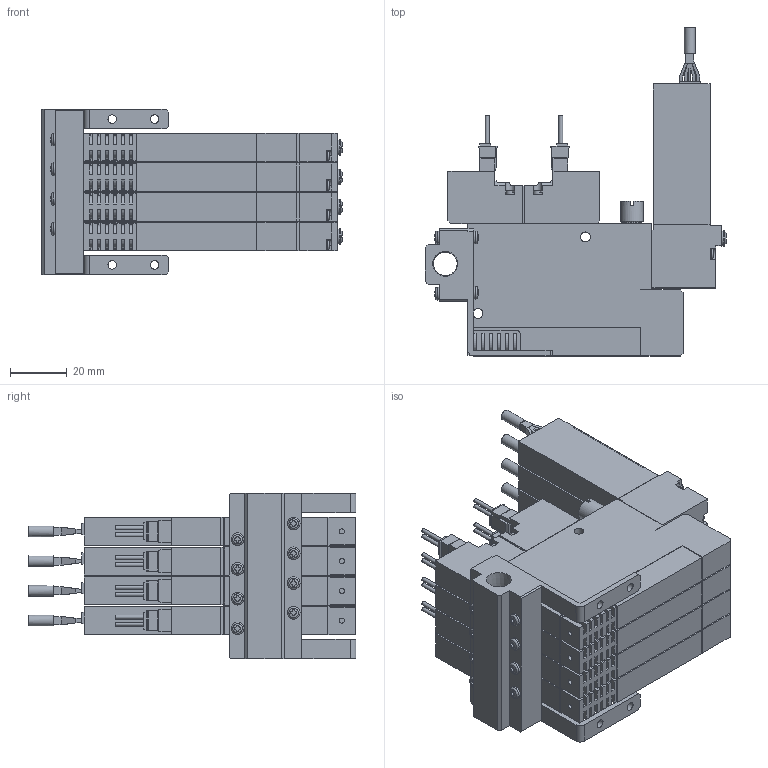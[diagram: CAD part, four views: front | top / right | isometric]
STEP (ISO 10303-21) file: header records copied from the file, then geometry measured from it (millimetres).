
FILE_DESCRIPTION(('STEP AP203'),'1');
FILE_NAME('5SS404_3D.stp','2024-09-04T13:56:58',(' '),(' '),'Spatial InterOp 3D',' ',' ');
FILE_SCHEMA(('CONFIG_CONTROL_DESIGN'));
Length unit declared in the file: millimetre
Products named in the file (5): BSC1M※※V9※5SS404; Solenoid valve S; Pressure Sensor V9; Unit-S; BaseMS40R
Assembly tree (13 placements, depth 2):
  BSC1M※※V9※5SS404
    Solenoid valve S  x4
    Pressure Sensor V9  x4
    Unit-S  x4
    BaseMS40R
Bounding box: 106.35 x 115.8 x 58.5 mm (x, y, z)
Volume: 235444.1 mm3; surface area: 93803.6 mm2
Topology: 13 solids, 13 shells, 2127 faces, 5843 edges, 3862 vertices
Faces by surface type: plane 1582, cylinder 475, torus 24, sphere 24, cone 22
Full cylindrical faces by diameter (mm): 1.4 x16, 1.8 x4, 2.5 x8, 3 x20, 3.5 x32, 3.8 x4, 4 x4, 4.134 x8, 4.5 x12, 5.5 x8, 7 x4, 7.7 x4, 8 x4, 8.422 x1
Entity records: 22298 total; most frequent: CARTESIAN_POINT 4816, ORIENTED_EDGE 3504, DIRECTION 3480, EDGE_CURVE 1752, LINE 1268, VECTOR 1268, VERTEX_POINT 1206, AXIS2_PLACEMENT_3D 1106
